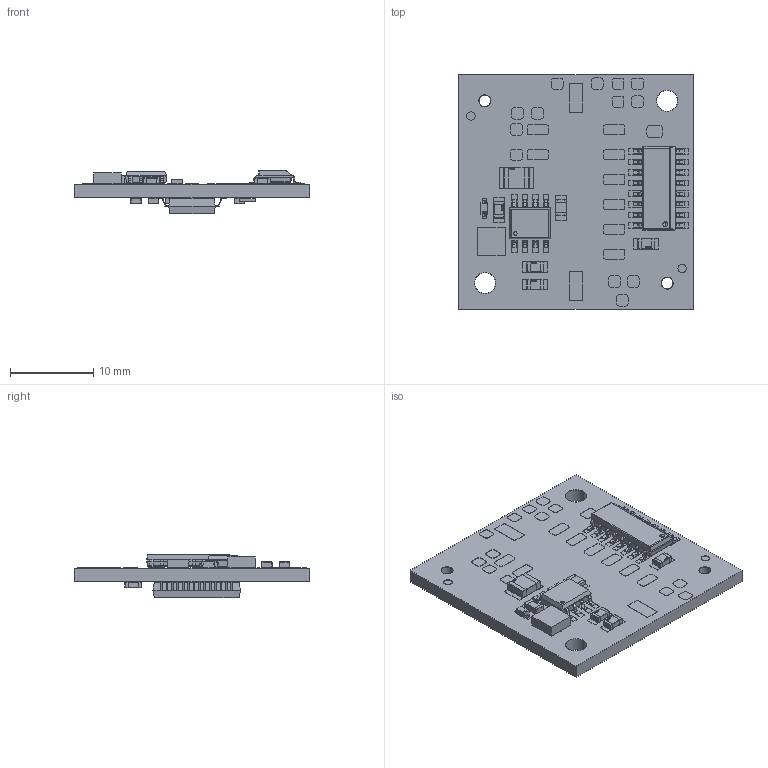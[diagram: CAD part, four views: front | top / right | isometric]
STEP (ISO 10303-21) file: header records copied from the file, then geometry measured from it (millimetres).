
FILE_DESCRIPTION (( 'STEP AP203' ), '1' );
FILE_NAME ('MODM276.STEP', '2019-12-12T10:06:00', ( '' ), ( '' ), 'SwSTEP 2.0', 'SolidWorks 2016', '' );
FILE_SCHEMA (( 'CONFIG_CONTROL_DESIGN' ));
Products named in the file (1): MODM276
Bounding box: 28.2 x 28.2 x 5.27 mm (x, y, z)
Volume: 1506.4 mm3; surface area: 2970.6 mm2
Topology: 196 solids, 196 shells, 3368 faces, 8370 edges, 5387 vertices
Faces by surface type: plane 2161, bspline 634, cylinder 561, sphere 12
Entity records: 143539 total; most frequent: CARTESIAN_POINT 68118, ORIENTED_EDGE 16542, DIRECTION 13182, EDGE_CURVE 8271, VECTOR 6042, LINE 6042, VERTEX_POINT 5386, AXIS2_PLACEMENT_3D 3570
